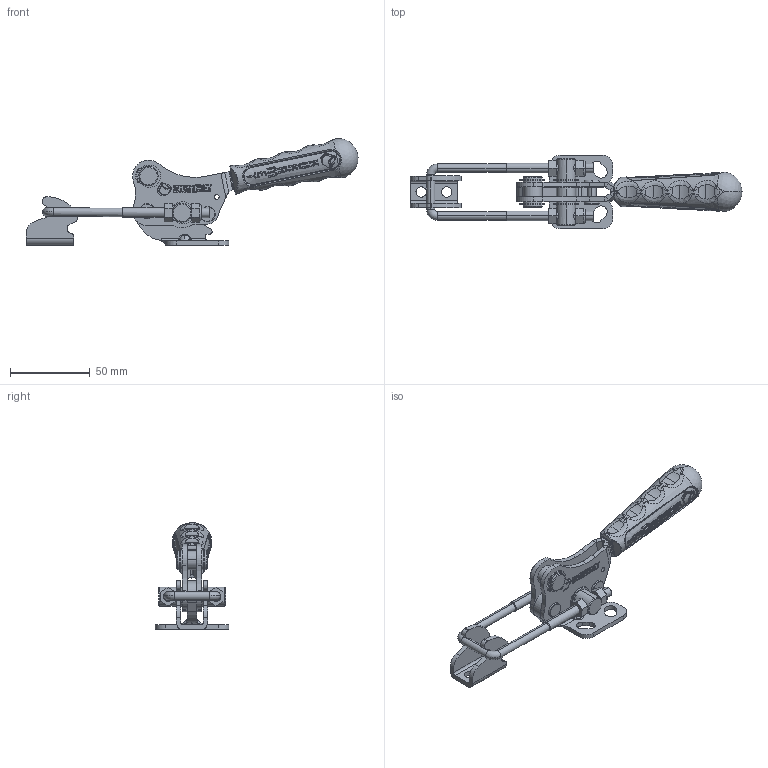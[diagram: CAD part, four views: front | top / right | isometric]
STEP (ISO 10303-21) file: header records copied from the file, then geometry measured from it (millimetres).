
FILE_DESCRIPTION(('STEP AP242'),'1');
FILE_NAME('311-3.stp','2023-11-27T15:29:08',('TraceParts'),('TraceParts S.A.'),'Spatial InterOp 3D',' ',' ');
FILE_SCHEMA(('AP242_MANAGED_MODEL_BASED_3D_ENGINEERING_MIM_LF {1 0 10303 442 1 1 4}'));
Length unit declared in the file: millimetre
Products named in the file (1): 311-3_1
Bounding box: 208.17 x 46 x 67.04 mm (x, y, z)
Volume: 62593.3 mm3; surface area: 34900.3 mm2
Topology: 9 solids, 17 shells, 2160 faces, 5449 edges, 3245 vertices
Faces by surface type: cylinder 825, bspline 560, plane 510, torus 183, cone 64, sphere 18
Entity records: 99182 total; most frequent: CARTESIAN_POINT 34440, ORIENTED_EDGE 10678, DIRECTION 9381, EDGE_CURVE 5339, AXIS2_PLACEMENT_3D 3828, VERTEX_POINT 3243, EDGE_LOOP 2246, ADVANCED_FACE 2160
